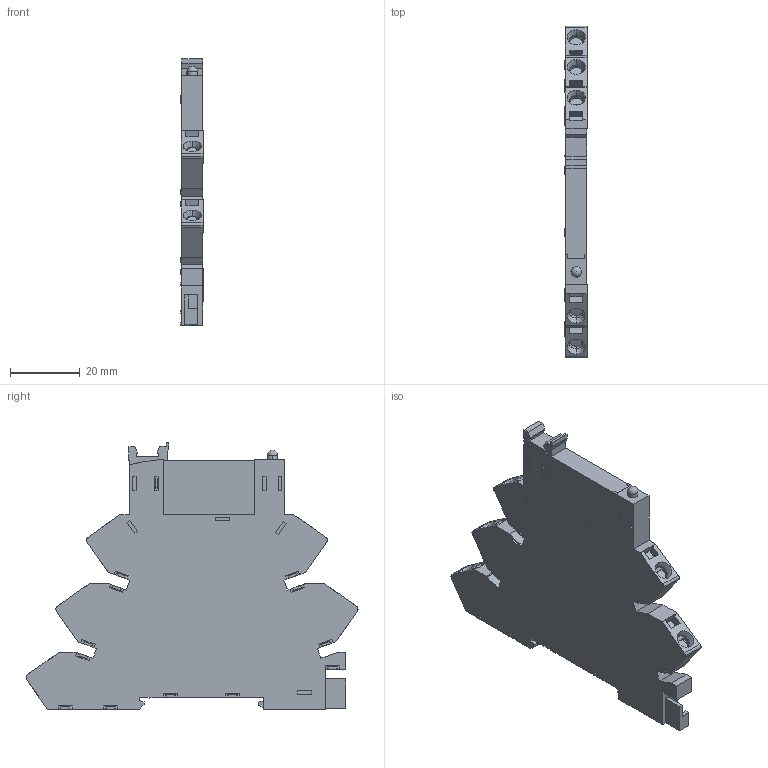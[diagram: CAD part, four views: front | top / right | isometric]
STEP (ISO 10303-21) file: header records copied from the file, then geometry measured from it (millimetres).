
FILE_DESCRIPTION (( 'STEP AP214' ), '1' );
FILE_NAME ('CINT-2x.STEP', '2015-10-27T13:59:15', ( '' ), ( '' ), 'SwSTEP 2.0', 'SolidWorks 2015', '' );
FILE_SCHEMA (( 'AUTOMOTIVE_DESIGN' ));
Length unit declared in the file: millimetre
Products named in the file (1): CINT-2x
Bounding box: 6.34 x 95.36 x 76.64 mm (x, y, z)
Volume: 28387.3 mm3; surface area: 12424.7 mm2
Topology: 1 solids, 1 shells, 499 faces, 1381 edges, 908 vertices
Faces by surface type: plane 466, cylinder 21, cone 11, sphere 1
Entity records: 15599 total; most frequent: CARTESIAN_POINT 2831, ORIENTED_EDGE 2756, DIRECTION 2417, EDGE_CURVE 1378, VECTOR 1309, LINE 1309, VERTEX_POINT 906, AXIS2_PLACEMENT_3D 554
